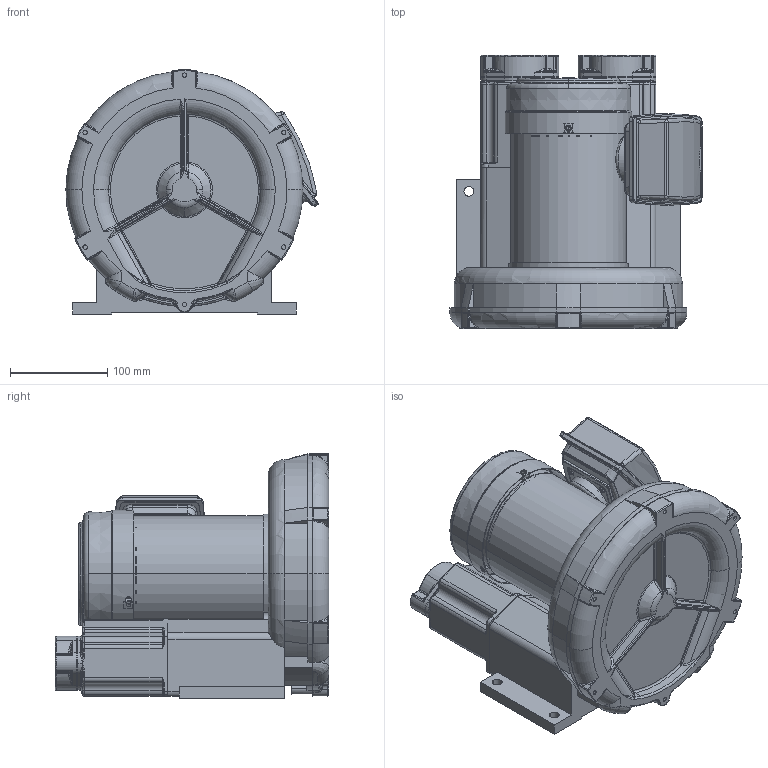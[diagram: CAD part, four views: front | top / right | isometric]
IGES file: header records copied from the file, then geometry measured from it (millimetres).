
Global section: file name: No Iges File Name specified; native system: AutoDesk Inventor R10; preprocessor: AutoDesk Inventor Iges Exporter R10; author: No Author specified; organization: No Organization specified; date: 20060310.155354; units: millimetre
Bounding box: 259.6 x 281.5 x 251.49 mm (x, y, z)
Volume: 4559865.9 mm3; surface area: 755803.5 mm2
Topology: 17 solids, 18 shells, 2283 faces, 6097 edges, 3705 vertices
Faces by surface type: bspline 773, cylinder 456, revolution 431, plane 389, torus 157, cone 43, sphere 34
